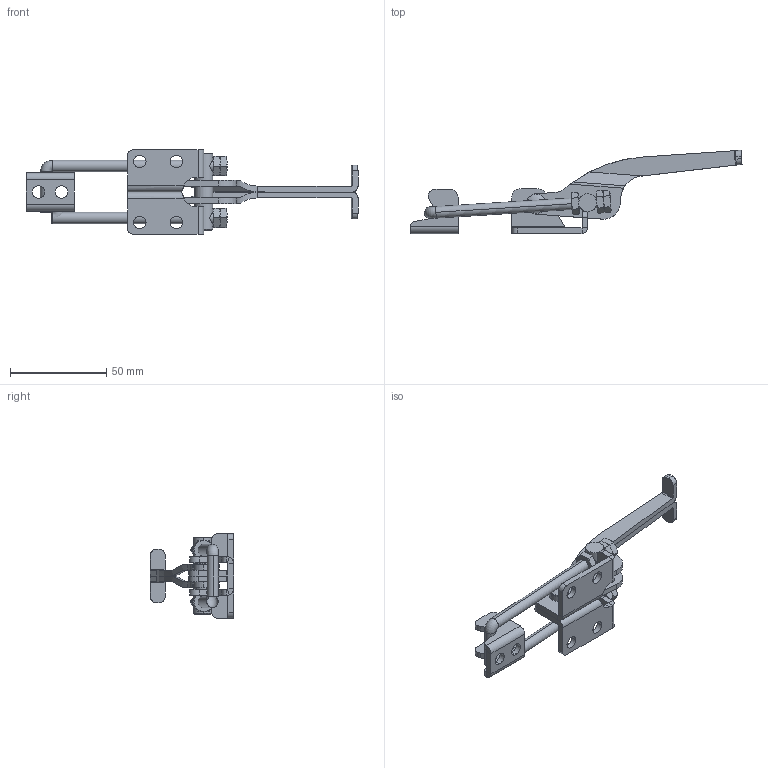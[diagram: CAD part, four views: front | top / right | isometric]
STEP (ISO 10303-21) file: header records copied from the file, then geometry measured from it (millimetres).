
FILE_DESCRIPTION (( 'STEP AP214' ), '1' );
FILE_NAME ('ISK-FA2000.STEP', '2015-08-18T05:28:43', ( '' ), ( '' ), 'SwSTEP 2.0', 'SolidWorks 2015', '' );
FILE_SCHEMA (( 'AUTOMOTIVE_DESIGN' ));
Length unit declared in the file: millimetre
Products named in the file (8): Rivet_Φ5×12; hexagon nut_3_jis_JIS B 1181 Hexagon nut - Class 3 Finished M6 --N; Part; Handle; Arm; Arm _Pin; Base; ISK-FA2000
Assembly tree (12 placements, depth 2):
  ISK-FA2000
    Base
    Arm _Pin
    Arm
    Handle
    Part
    hexagon nut_3_jis_JIS B 1181 Hexagon nut - Class 3 Finished M6 --N  x6
    Rivet_Φ5×12
Bounding box: 172.87 x 43.43 x 44 mm (x, y, z)
Volume: 28962.6 mm3; surface area: 24796.5 mm2
Topology: 14 solids, 14 shells, 374 faces, 879 edges, 526 vertices
Faces by surface type: plane 141, cylinder 120, cone 98, bspline 12, torus 2, sphere 1
Entity records: 15098 total; most frequent: CARTESIAN_POINT 9211, DIRECTION 1144, ORIENTED_EDGE 1144, EDGE_CURVE 572, AXIS2_PLACEMENT_3D 429, VERTEX_POINT 354, LINE 286, VECTOR 286
